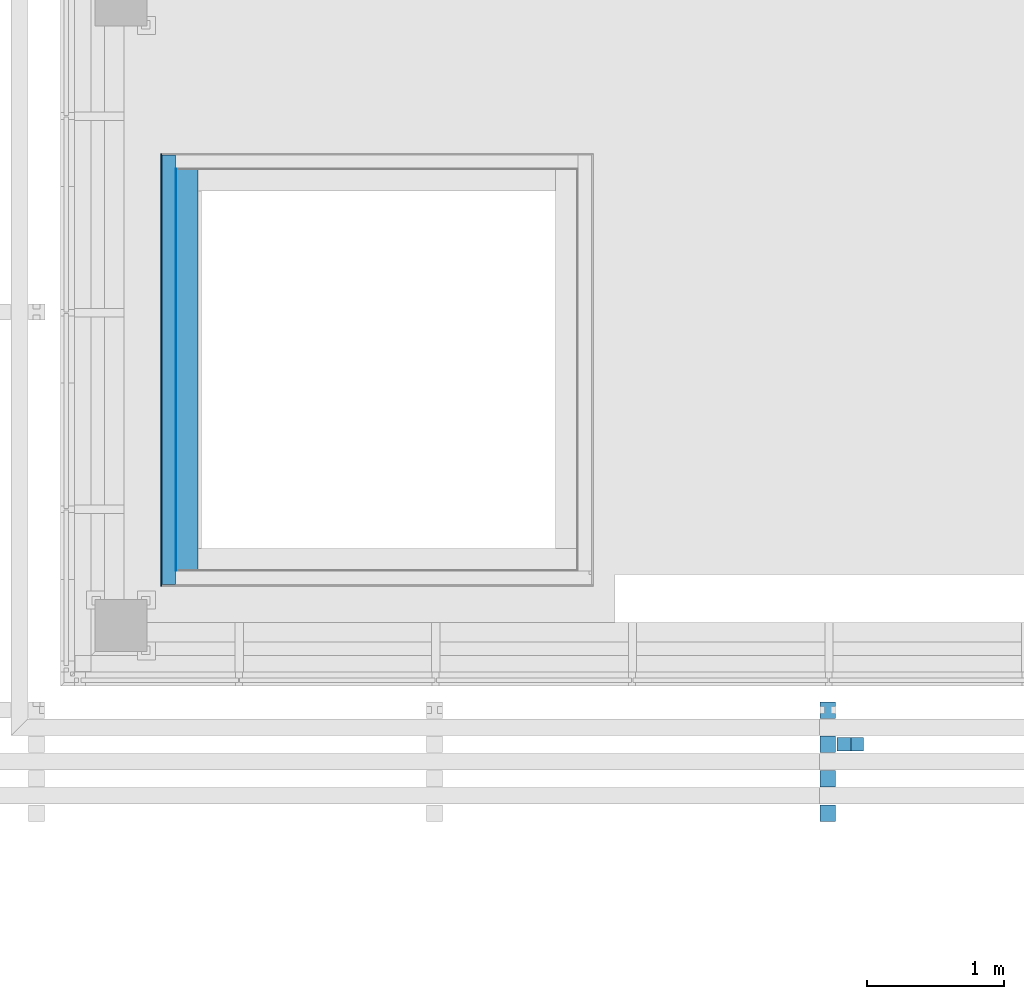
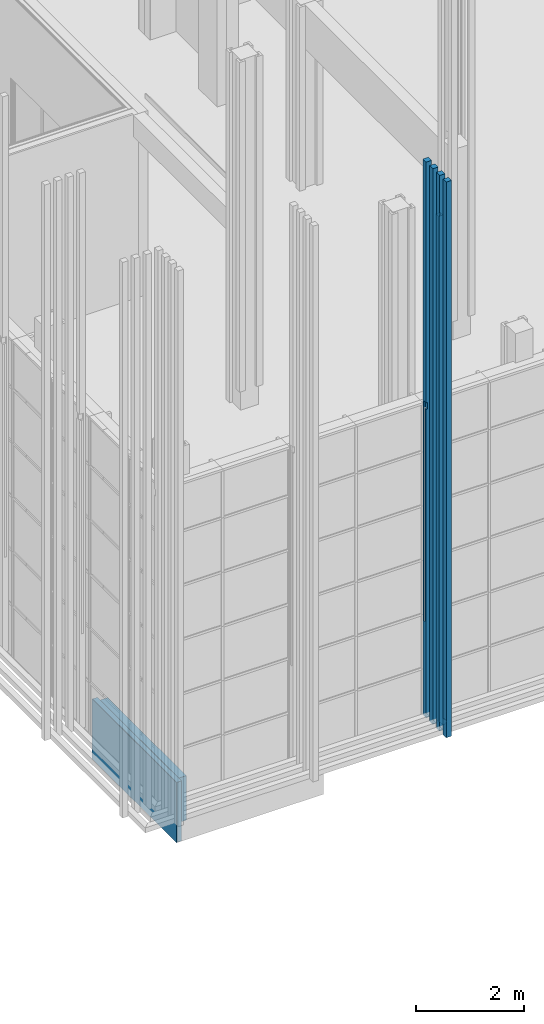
# One storey, part 128 of 260: 4 building element parts, 2 discrete accessories, 1 element without a shape of its own.
"""IFC2X3 building model written with IfcOpenShell, lengths in millimetres."""

import ifcopenshell
import ifcopenshell.guid

model = None  # the IFC model being written
_history = None  # IfcOwnerHistory: only IFC2X3 demands one
_inside = {}  # id of a spatial element -> (the spatial element, [elements in it])
_under = {}  # id of a project, library or spatial element -> (it, [spatial elements below it])
_declared = {}  # id of a project -> (the project, [libraries it declares])
_typed = {}  # id of a type object -> (the type object, [elements of that type])
_made_of = {}  # id of a material, layer set ... -> (it, [elements and type objects made of it])


def new_model(schema):
    """Start an empty IFC model of exactly this schema.

    Asked for "IFC4X3", IfcOpenShell would pick the latest addendum, in which some entities
    have other attributes; the version numbers below select the first issue.
    IFC2X3 requires an IfcOwnerHistory on every rooted entity: one is made here for all.
    """
    global model, _history
    if schema == "IFC4X3":
        model = ifcopenshell.file(schema_version=(4, 3, 0, 0))
    else:
        model = ifcopenshell.file(schema=schema)
    _inside.clear()
    _under.clear()
    _declared.clear()
    _typed.clear()
    _made_of.clear()
    _history = None
    if model.schema == "IFC2X3":
        org = make("IfcOrganization", Name="unknown")
        user = make(
            "IfcPersonAndOrganization",
            ThePerson=make("IfcPerson", FamilyName="unknown"),
            TheOrganization=org,
        )
        app = make(
            "IfcApplication",
            ApplicationDeveloper=org,
            Version="unknown",
            ApplicationFullName="unknown",
            ApplicationIdentifier="unknown",
        )
        _history = make(
            "IfcOwnerHistory",
            OwningUser=user,
            OwningApplication=app,
            ChangeAction="ADDED",
            CreationDate=0,
        )
    return model


def make(cls, **values):
    """One entity of the class cls with the attributes given. An attribute that is None is left unset."""
    return model.create_entity(
        cls, **{name: value for name, value in values.items() if value is not None}
    )


def entity(cls, *values):
    """Any entity or typed value of the class cls, its attributes in the order of the schema. None: left unset."""
    e = model.create_entity(cls)
    for i, value in enumerate(values):
        if value is not None:
            e[i] = value
    return e


def rooted(cls, **values):
    """An entity with a GlobalId (a new one), such as an element, a storey or a relation."""
    return make(cls, GlobalId=ifcopenshell.guid.new(), OwnerHistory=_history, **values)


def si_unit(unit_type, name, prefix=None):
    """IfcSIUnit, for example si_unit("LENGTHUNIT", "METRE", prefix="MILLI")."""
    return make("IfcSIUnit", UnitType=unit_type, Prefix=prefix, Name=name)


def converted_unit(unit_type, name, factor, base, dimensions=None, offset=None):
    """IfcConversionBasedUnit, such as the inch: factor (a typed value) times the base unit."""
    return make(
        "IfcConversionBasedUnit"
        if offset is None
        else "IfcConversionBasedUnitWithOffset",
        ConversionOffset=offset,
        Dimensions=None
        if dimensions is None
        else entity("IfcDimensionalExponents", *dimensions),
        UnitType=unit_type,
        Name=name,
        ConversionFactor=make(
            "IfcMeasureWithUnit", ValueComponent=factor, UnitComponent=base
        ),
    )


def derived_unit(unit_type, elements):
    """IfcDerivedUnit: a product of units, each with its exponent."""
    return make(
        "IfcDerivedUnit",
        Elements=[
            make("IfcDerivedUnitElement", Unit=unit, Exponent=power)
            for unit, power in elements
        ],
        UnitType=unit_type,
    )


def money_unit(currency):
    """IfcMonetaryUnit."""
    return make("IfcMonetaryUnit", Currency=currency)


def assignment(units):
    """IfcUnitAssignment: the units of a project."""
    return None if units is None else make("IfcUnitAssignment", Units=units)


def point(xyz):
    """IfcCartesianPoint."""
    return None if xyz is None else make("IfcCartesianPoint", Coordinates=xyz)


def direction(xyz):
    """IfcDirection."""
    return None if xyz is None else make("IfcDirection", DirectionRatios=xyz)


def frame(location, z_axis=None, x_axis=None):
    """IfcAxis2Placement3D, a coordinate frame: its origin and axes. An axis left out is left unset."""
    return make(
        "IfcAxis2Placement3D",
        Location=point(location),
        Axis=direction(z_axis),
        RefDirection=direction(x_axis),
    )


def origin_with_axes():
    """The frame at (0, 0, 0) with the z axis (0, 0, 1) and the x axis (1, 0, 0) written out."""
    return frame((0.0, 0.0, 0.0), z_axis=(0.0, 0.0, 1.0), x_axis=(1.0, 0.0, 0.0))


def place(relative_to, where):
    """IfcLocalPlacement: puts the frame where relative to a parent placement (None: the world)."""
    return make(
        "IfcLocalPlacement", PlacementRelTo=relative_to, RelativePlacement=where
    )


def context(
    kind, dimensions, precision=None, world=None, true_north=None, identifier=None
):
    """IfcGeometricRepresentationContext, for example the 3D "Model" context."""
    return make(
        "IfcGeometricRepresentationContext",
        ContextIdentifier=identifier,
        ContextType=kind,
        CoordinateSpaceDimension=dimensions,
        Precision=precision,
        WorldCoordinateSystem=world,
        TrueNorth=true_north,
    )


def subcontext(parent, identifier, kind, view, scale=None):
    """IfcGeometricRepresentationSubContext, for example "Body" below "Model"."""
    return make(
        "IfcGeometricRepresentationSubContext",
        ContextIdentifier=identifier,
        ContextType=kind,
        ParentContext=parent,
        TargetScale=scale,
        TargetView=view,
    )


def project(units=None, contexts=None):
    """IfcProject with its units and contexts."""
    return rooted(
        "IfcProject",
        Name="project",
        RepresentationContexts=contexts,
        UnitsInContext=assignment(units),
    )


def spatial(cls, under=None, at=None, **own):
    """A site, building, storey or space (cls), placed at a placement, below another one or the project."""
    s = rooted(cls, ObjectPlacement=at, **own)
    if under is not None:
        _under.setdefault(under.id(), (under, []))[1].append(s)
    return s


def faces_of(points, faces, orient=None, outer=None):
    """IfcFace entities. A face is a list of loops; a loop is a list of indices into points, from 0.

    orient and outer hold one flag for each loop. By default every Orientation is true, the
    first loop of a face is its IfcFaceOuterBound and the others are IfcFaceBound.
    """
    made = []
    for i, loops in enumerate(faces):
        bounds = []
        for j, loop in enumerate(loops):
            is_outer = j == 0 if outer is None else outer[i][j]
            bounds.append(
                make(
                    "IfcFaceOuterBound" if is_outer else "IfcFaceBound",
                    Bound=make("IfcPolyLoop", Polygon=[points[k] for k in loop]),
                    Orientation=True if orient is None else orient[i][j],
                )
            )
        made.append(make("IfcFace", Bounds=bounds))
    return made


def open_shell(faces, orient=None, outer=None):
    """The faces of one IfcOpenShell. surface_model builds it on its shared points."""
    return ("IfcOpenShell", faces, orient, outer)


def faceted_brep(points, faces, orient=None, outer=None, voids=None):
    """IfcFacetedBrep: a solid bounded by flat faces; with voids (closed shells), ...WithVoids."""
    shared = [point(p) for p in points]
    hull = make("IfcClosedShell", CfsFaces=faces_of(shared, faces, orient, outer))
    if voids is None:
        return make("IfcFacetedBrep", Outer=hull)
    return make(
        "IfcFacetedBrepWithVoids",
        Outer=hull,
        Voids=[
            make(cls, CfsFaces=faces_of(shared, fs, o, b)) for cls, fs, o, b in voids
        ],
    )


def surface_model(cls, points, shells):
    """IfcFaceBasedSurfaceModel or IfcShellBasedSurfaceModel (cls): surfaces that need not close."""
    shared = [point(p) for p in points]
    made = [make(c, CfsFaces=faces_of(shared, fs, o, b)) for c, fs, o, b in shells]
    if cls == "IfcFaceBasedSurfaceModel":
        return make(cls, FbsmFaces=made)
    return make(cls, SbsmBoundary=made)


def shape(context_of_items, identifier, shape_type, items):
    """IfcShapeRepresentation: the items that make up one representation, for example the "Body"."""
    return make(
        "IfcShapeRepresentation",
        ContextOfItems=context_of_items,
        RepresentationIdentifier=identifier,
        RepresentationType=shape_type,
        Items=items,
    )


def material(Name=None, Category=None):
    """IfcMaterial."""
    return make("IfcMaterial", Name=Name, Category=Category)


def material_list(materials):
    """IfcMaterialList."""
    return make("IfcMaterialList", Materials=materials)


def made_of(thing, what):
    """Note that an element or type object is made of a material, layer set ...; save() writes the relation."""
    if what is not None:
        _made_of.setdefault(what.id(), (what, []))[1].append(thing)
    return thing


def type_object(cls, material=None, **own):
    """A type object (cls), such as IfcWallType, which elements share."""
    return made_of(rooted(cls, **own), material)


def element(
    cls,
    number,
    at=None,
    inside=None,
    cuts=None,
    type_object=None,
    material=None,
    context=None,
    identifier="Body",
    shape_type=None,
    held_by="IfcProductDefinitionShape",
    body=None,
    shapes=None,
    **own,
):
    """One element of the class cls, such as IfcWall. Its Tag is "e" and its number.

    at: its placement. inside: the storey or other place that contains it. cuts: it is an
    opening in that element (IfcRelVoidsElement). A single representation is given by context,
    identifier, shape_type and body (its items); several are given by shapes. held_by: the class
    of the entity that holds the representations. save() writes the other relations.
    """
    e = rooted(cls, Tag="e%d" % number, ObjectPlacement=at, **own)
    if body is not None:
        shapes = [shape(context, identifier, shape_type, body)]
    if shapes is not None:
        e.Representation = make(held_by, Representations=shapes)
    if inside is not None:
        _inside.setdefault(inside.id(), (inside, []))[1].append(e)
    if cuts is not None:
        rooted(
            "IfcRelVoidsElement", RelatingBuildingElement=cuts, RelatedOpeningElement=e
        )
    if type_object is not None:
        _typed.setdefault(type_object.id(), (type_object, []))[1].append(e)
    return made_of(e, material)


def aggregate(whole, parts):
    """IfcRelAggregates: a whole, such as a stair, and the parts it consists of."""
    return rooted("IfcRelAggregates", RelatingObject=whole, RelatedObjects=parts)


def save(model, path):
    """Write the relations noted so far, then the file.

    IfcRelAggregates (storeys below a building ...), IfcRelContainedInSpatialStructure (elements
    in a storey), IfcRelDefinesByType, IfcRelAssociatesMaterial and IfcRelDeclares: one each for
    every whole, place, type object, material and project.
    """
    for whole, parts in _under.values():
        aggregate(whole, parts)
    for where, things in _inside.values():
        rooted(
            "IfcRelContainedInSpatialStructure",
            RelatedElements=things,
            RelatingStructure=where,
        )
    for kind, things in _typed.values():
        rooted("IfcRelDefinesByType", RelatedObjects=things, RelatingType=kind)
    for what, things in _made_of.values():
        rooted("IfcRelAssociatesMaterial", RelatedObjects=things, RelatingMaterial=what)
    for by, libraries in _declared.values():
        rooted("IfcRelDeclares", RelatingContext=by, RelatedDefinitions=libraries)
    model.write(path)


model = new_model("IFC2X3")

# Units and contexts
model_context = context("Model", 3, precision=0.01, world=origin_with_axes(), true_north=direction((0.0, 1.0)))
body_context = subcontext(model_context, "Body", "Model", "MODEL_VIEW")
ifc_project = project(units=[si_unit("LENGTHUNIT", "METRE", prefix="MILLI"), si_unit("AREAUNIT", "SQUARE_METRE"), si_unit("VOLUMEUNIT", "CUBIC_METRE"), converted_unit("PLANEANGLEUNIT", "DEGREE", entity("IfcPlaneAngleMeasure", 0.0174532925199), si_unit("PLANEANGLEUNIT", "RADIAN"), dimensions=[0, 0, 0, 0, 0, 0, 0]), money_unit("EUR"), converted_unit("TIMEUNIT", "Year", entity("IfcTimeMeasure", 31556926.0), si_unit("TIMEUNIT", "SECOND"), dimensions=[0, 0, 1, 0, 0, 0, 0]), si_unit("MASSUNIT", "GRAM", prefix="KILO"), si_unit("THERMODYNAMICTEMPERATUREUNIT", "DEGREE_CELSIUS"), si_unit("LUMINOUSINTENSITYUNIT", "LUMEN"), si_unit("ENERGYUNIT", "JOULE", prefix="MEGA"), derived_unit("THERMALCONDUCTANCEUNIT", [(si_unit("POWERUNIT", "WATT"), 1), (si_unit("LENGTHUNIT", "METRE"), -1), (si_unit("THERMODYNAMICTEMPERATUREUNIT", "KELVIN"), -1)]), derived_unit("SPECIFICHEATCAPACITYUNIT", [(si_unit("ENERGYUNIT", "JOULE"), 1), (si_unit("MASSUNIT", "GRAM", prefix="KILO"), -1), (si_unit("THERMODYNAMICTEMPERATUREUNIT", "KELVIN"), -1)]), derived_unit("MASSDENSITYUNIT", [(si_unit("MASSUNIT", "GRAM", prefix="KILO"), 1), (si_unit("VOLUMEUNIT", "CUBIC_METRE"), -1)])], contexts=[model_context])

# Site, building, storey
site_placement = place(None, origin_with_axes())
site = spatial("IfcSite", under=ifc_project, at=site_placement, Name="Kolde pst 67a", CompositionType="ELEMENT")
building_placement = place(site_placement, origin_with_axes())
building = spatial("IfcBuilding", under=site, at=building_placement, Name="Riigigümnaasium", CompositionType="ELEMENT")
storey_placement = place(building_placement, origin_with_axes())
storey = spatial("IfcBuildingStorey", under=building, at=storey_placement, Name="1. korrus", CompositionType="ELEMENT", Elevation=0.0)

# Discrete accessories
ifc_material_1 = material(Name="_VÄLISVIIMISTLUS - sõrmjätkatud puitprussid 120x115mm, liitekohad vähemärgatavad, Platowood sõrmjätkatud kuusk või samaväärne; eeltöödeldud tuletõkkevõõbaga, tuletundlikkus B-s1, d0, Woodsafe Exterior WFX™ või samaväärne; kinnitused vastavalt EK osale")
ifc_material_list = material_list([ifc_material_1, ifc_material_1, ifc_material_1, ifc_material_1])
discrete_accessory_type_1 = type_object("IfcDiscreteAccessoryType", Name="120 4-ne vertikaalne 870 x 115")
discrete_accessory_1_placement = place(storey_placement, frame((29357.5025222, 23687.999745, 280.0), z_axis=(0.0, 0.0, 1.0), x_axis=(-3.13999128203e-06, 0.999999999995, 0.0)))
element("IfcDiscreteAccessory", 1, at=discrete_accessory_1_placement, inside=storey, type_object=discrete_accessory_type_1, material=ifc_material_list, Name="Päikesevarjestus", context=body_context, shape_type="Brep", body=[
    faceted_brep([(-48.0003611, 44.9997331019, 6990.0), (-48.0004709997, 9.99973310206, 6990.0), (-47.8300549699, 10.0027698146, 6990.0), (-47.8320637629, 45.0, 6990.0), (-48.0003611, 44.9997331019, 2150.0), (-48.0004709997, 9.99973310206, 2150.0), (-98.0004709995, 9.99989010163, 6990.0), (-133.0, 9.9978811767, 6990.0), (-133.0, 9.9978811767, 7140.0), (-47.8300549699, 10.0027698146, 7140.0), (-47.8320637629, 45.0, 7140.0), (-133.0, 45.0, 7140.0), (-133.0, 45.0, 12600.0), (-13.0, 45.0, 12600.0), (-13.0, 45.0, 0.0), (-133.0, 45.0, 0.0), (-133.0, 45.0, 6990.0), (-98.0003610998, 44.9998901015, 6990.0), (-98.0003610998, 44.9998901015, 2150.0), (-98.0004709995, 9.99989010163, 2150.0), (-133.0, -35.001867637, 7140.0), (-133.0, -70.0, 7140.0), (-133.0, -70.0, 12600.0), (-133.0, -70.0, 0.0), (-133.0, -70.0, 6990.0), (-133.0, -35.001867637, 6990.0), (-13.0, -70.0, 12600.0), (-13.0, -70.0, 0.0), (-48.0006124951, -34.9969887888, 7140.0), (-47.9986033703, -70.0, 7140.0), (-48.0003610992, -70.0000156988, 6990.0), (-48.0003610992, -70.0000156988, 2150.0), (-98.000361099, -69.9998586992, 2150.0), (-98.000361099, -69.9998586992, 6990.0), (-98.0002511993, -34.9998586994, 6990.0), (-48.0002511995, -35.000015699, 6990.0), (-48.0002511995, -35.000015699, 2150.0), (-98.0002511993, -34.9998586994, 2150.0)], [[[0, 1, 2, 3]], [[1, 0, 4, 5]], [[1, 6, 7, 8, 9, 2]], [[2, 9, 10, 3]], [[4, 0, 3, 10, 11, 12, 13, 14, 15, 16, 17, 18]], [[4, 18, 19, 5]], [[6, 1, 5, 19]], [[6, 17, 16, 7]], [[20, 21, 22, 12, 11, 8, 7, 16, 15, 23, 24, 25]], [[10, 9, 8, 11]], [[26, 13, 12, 22]], [[14, 13, 26, 27]], [[15, 14, 27, 23]], [[17, 6, 19, 18]], [[20, 28, 29, 21]], [[29, 30, 31, 32, 33, 24, 23, 27, 26, 22, 21]], [[34, 25, 24, 33]], [[28, 20, 25, 34, 35]], [[30, 29, 28, 35]], [[30, 35, 36, 31]], [[31, 36, 37, 32]], [[33, 32, 37, 34]], [[34, 37, 36, 35]]]),
    faceted_brep([(-383.0, -70.0, 0.0), (-263.0, -70.0, 0.0), (-263.0, -70.0, 12600.0), (-383.0, -70.0, 12600.0), (-383.0, 45.0, 0.0), (-263.0, 45.0, 0.0), (-263.0, 45.0, 12600.0), (-383.0, 45.0, 12600.0)], [[[0, 1, 2, 3]], [[0, 4, 5, 1]], [[1, 5, 6, 2]], [[3, 2, 6, 7]], [[4, 0, 3, 7]], [[5, 4, 7, 6]]]),
    faceted_brep([(-633.0, -70.0, 0.0), (-513.0, -70.0, 0.0), (-513.0, -70.0, 12600.0), (-633.0, -70.0, 12600.0), (-633.0, 45.0, 0.0), (-513.0, 45.0, 0.0), (-513.0, 45.0, 12600.0), (-633.0, 45.0, 12600.0)], [[[0, 1, 2, 3]], [[0, 4, 5, 1]], [[1, 5, 6, 2]], [[3, 2, 6, 7]], [[4, 0, 3, 7]], [[5, 4, 7, 6]]]),
    faceted_brep([(-883.0, -70.0, 0.0), (-763.0, -70.0, 0.0), (-763.0, -70.0, 12600.0), (-883.0, -70.0, 12600.0), (-883.0, 45.0, 0.0), (-763.0, 45.0, 0.0), (-763.0, 45.0, 12600.0), (-883.0, 45.0, 12600.0)], [[[0, 1, 2, 3]], [[0, 4, 5, 1]], [[1, 5, 6, 2]], [[3, 2, 6, 7]], [[4, 0, 3, 7]], [[5, 4, 7, 6]]]),
])
discrete_accessory_type_2 = type_object("IfcDiscreteAccessoryType", Name="Downspout Complex 25")
discrete_accessory_2_placement = place(storey_placement, frame((29488.6989039, 23366.4790362, 169.995312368), z_axis=(0.0, 0.0, 1.0), x_axis=(0.0, 1.0, 0.0)))
element("IfcDiscreteAccessory", 2, at=discrete_accessory_2_placement, inside=storey, type_object=discrete_accessory_type_2, Name="Vihmavee toru LORO-X Quadratic 100x100 mm, kuumtsingitud teras, või analoogne", context=body_context, shape_type="SurfaceModel", body=[
    surface_model("IfcShellBasedSurfaceModel", [(-50.0, 50.0, 311.421356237), (-50.0, 50.0, 120.710678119), (-50.0, -70.7106781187, 0.0), (-50.0, -141.421356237, 70.7106781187), (-50.0, -50.0, 162.132034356), (-50.0, -50.0, 311.421356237), (50.0, 50.0, 311.421356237), (50.0, 50.0, 120.710678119), (50.0, -70.7106781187, 0.0), (50.0, -141.421356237, 70.7106781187), (50.0, -50.0, 162.132034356), (50.0, -50.0, 311.421356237)], [open_shell([[[0, 1, 2, 3, 4, 5]], [[6, 7, 1, 0]], [[7, 8, 2, 1]], [[4, 3, 9, 10]], [[5, 4, 10, 11]], [[11, 10, 9, 8, 7, 6]]])]),
    surface_model("IfcShellBasedSurfaceModel", [(50.0, -50.0, 11579.9520364), (50.0, -50.0, 311.421356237), (50.0, 50.0, 311.421356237), (50.0, 50.0, 11579.9520364), (-50.0, -50.0, 11579.9520364), (-50.0, -50.0, 311.421356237), (-50.0, 50.0, 311.421356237), (-50.0, 50.0, 11579.9520364)], [open_shell([[[0, 1, 2, 3]], [[4, 5, 1, 0]], [[3, 2, 6, 7]], [[7, 6, 5, 4]]])]),
])

# Wall, building element parts
wall_type = type_object("IfcWallType", Name="VS-RB-16/1_mullakast 273", PredefinedType="NOTDEFINED")
wall_placement = place(storey_placement, frame((24630.0567695, 27550.0, -1460.1), z_axis=(0.0, 0.0, 1.0), x_axis=(0.0, -1.0, 0.0)))
wall = element("IfcWall", 3, at=wall_placement, inside=storey, type_object=wall_type, Name="taimekast")
ifc_material_2 = material(Name="_KANDETARIND - monoliitne raudbetoon vastavalt EK osale")
building_element_part_1_placement = place(wall_placement, origin_with_axes())
building_element_part_1 = element("IfcBuildingElementPart", 4, at=building_element_part_1_placement, material=ifc_material_2, Name="_KANDETARIND - monoliitne raudbetoon vastavalt EK osale", context=body_context, shape_type="Brep", body=[
    faceted_brep([(2920.0, 160.0, 350.1), (0.0, 160.0, 350.1), (0.0, 160.0, 1360.1), (2920.0, 160.0, 1360.1), (0.0, 0.0, 350.1), (2920.0, 0.0, 350.1), (0.0, 0.0, 1360.1), (2920.0, 0.0, 1360.1)], [[[0, 1, 2, 3]], [[4, 1, 0, 5]], [[1, 4, 6, 2]], [[7, 3, 2, 6]], [[5, 0, 3, 7]], [[4, 5, 7, 6]]]),
])
ifc_material_3 = material(Name="_HÜDROISOLATSIOON/RADOONITÕKE - eelpaigaldatav elastne hüdroisolatsioonimembraan, värske betooniga nakkuv, radoonitihe, FORSOC PROOFEX 3000 või samaväärne")
building_element_part_2_placement = place(wall_placement, origin_with_axes())
building_element_part_2 = element("IfcBuildingElementPart", 5, at=building_element_part_2_placement, material=ifc_material_3, Name="_HÜDROISOLATSIOON/RADOONITÕKE - eelpaigaldatav elastne hüdroisolatsioonimembraan, värske betooniga nakkuv, radoonitihe, FORSOC PROOFEX 3000 või samaväärne", context=body_context, shape_type="Brep", body=[
    faceted_brep([(2923.0, 0.0, 350.1), (-3.0, 0.0, 350.1), (-3.0, 0.0, 1360.1), (2923.0, 0.0, 1360.1), (-3.0, -3.0, 350.1), (2923.0, -3.0, 350.1), (-3.0, -3.0, 1360.1), (2923.0, -3.0, 1360.1)], [[[0, 1, 2, 3]], [[4, 1, 0, 5]], [[1, 4, 6, 2]], [[7, 3, 2, 6]], [[5, 0, 3, 7]], [[4, 5, 7, 6]]]),
])
ifc_material_4 = material(Name="_SOOJUSTUS - vahtpolüstüreenplaadid EPS 120 Perimeeter, survetugevus min. 120kPa, veeimavus <2%, soojuserijuhtivus λD<0,036 W/(mK)")
building_element_part_3_placement = place(wall_placement, origin_with_axes())
building_element_part_3 = element("IfcBuildingElementPart", 6, at=building_element_part_3_placement, material=ifc_material_4, Name="_SOOJUSTUS - vahtpolüstüreenplaadid EPS 120 Perimeeter, survetugevus min. 120kPa, veeimavus <2%, soojuserijuhtivus λD<0,036 W/(mK)", context=body_context, shape_type="Brep", body=[
    faceted_brep([(2960.0, -3.0, 0.0), (2960.0, -3.0, 350.1), (-43.0, -3.0, 350.1), (-43.0, -3.0, 0.0), (-103.0, -3.0, 0.0), (-103.0, -3.0, 1360.1), (3023.0, -3.0, 1360.1), (3023.0, -3.0, 0.0), (2960.0, -43.0, 0.0), (2960.0, -43.0, 350.1), (-43.0, -43.0, 350.1), (-43.0, -43.0, 0.0), (3023.0, -103.0, 0.0), (-103.0, -103.0, 0.0), (-103.0, -103.0, 1360.1), (3023.0, -103.0, 1360.1)], [[[0, 1, 2, 3, 4, 5, 6, 7]], [[1, 0, 8, 9]], [[2, 1, 9, 10]], [[3, 2, 10, 11]], [[8, 0, 7, 12, 13, 4, 3, 11]], [[5, 4, 13, 14]], [[15, 6, 5, 14]], [[12, 7, 6, 15]], [[8, 11, 10, 9]], [[12, 15, 14, 13]]]),
])
ifc_material_5 = material(Name="_ALUSKATE - drenaaži- ja kaitsematt geotekstiiliga soojustuse kaitseks, Interplast Iso-Drain 8 Geo või samaväärne")
building_element_part_4_placement = place(wall_placement, origin_with_axes())
building_element_part_4 = element("IfcBuildingElementPart", 7, at=building_element_part_4_placement, material=ifc_material_5, Name="_ALUSKATE - drenaaži- ja kaitsematt geotekstiiliga soojustuse kaitseks, Interplast Iso-Drain 8 Geo või samaväärne", context=body_context, shape_type="Brep", body=[
    faceted_brep([(3033.0, -113.0, 0.0), (-113.0, -113.0, 0.0), (-113.0, -103.0, 0.0), (3033.0, -103.0, 0.0), (3033.0, -113.0, 1360.1), (-113.0, -113.0, 1360.1), (-113.0, -103.0, 1360.1), (3033.0, -103.0, 1360.1)], [[[0, 1, 2, 3]], [[4, 5, 1, 0]], [[2, 1, 5, 6]], [[3, 2, 6, 7]], [[3, 7, 4, 0]], [[7, 6, 5, 4]]]),
])
aggregate(wall, [building_element_part_1, building_element_part_2, building_element_part_3, building_element_part_4])

save(model, "model.ifc")
